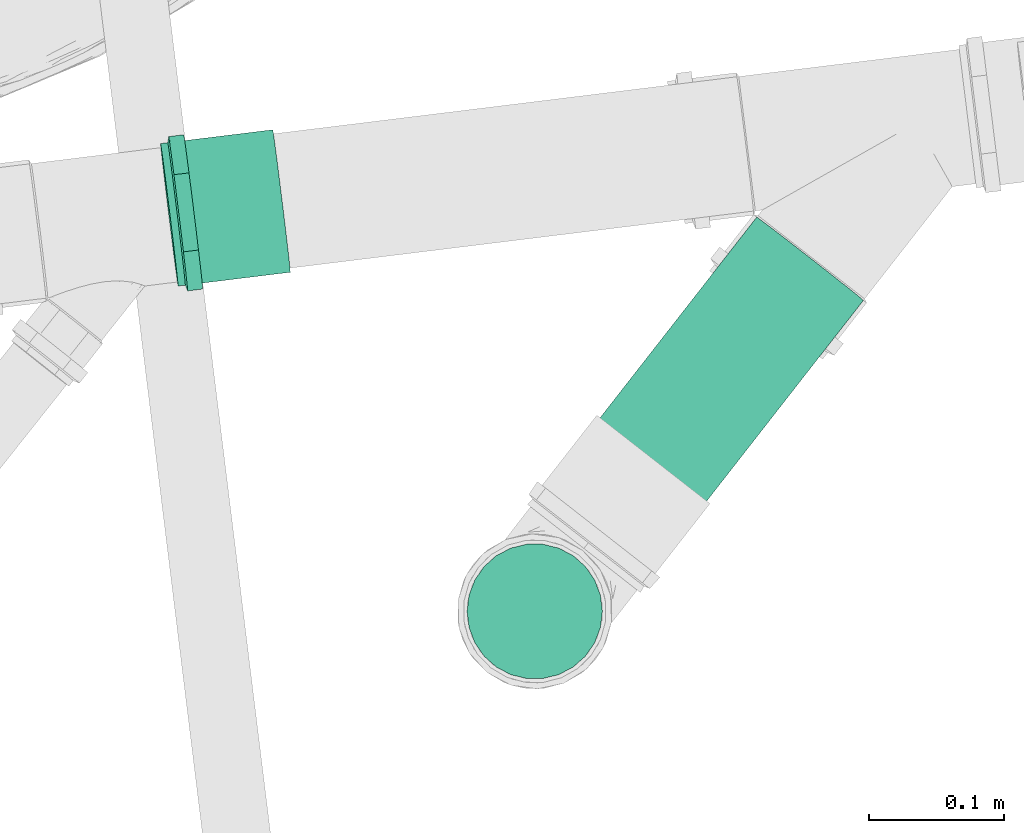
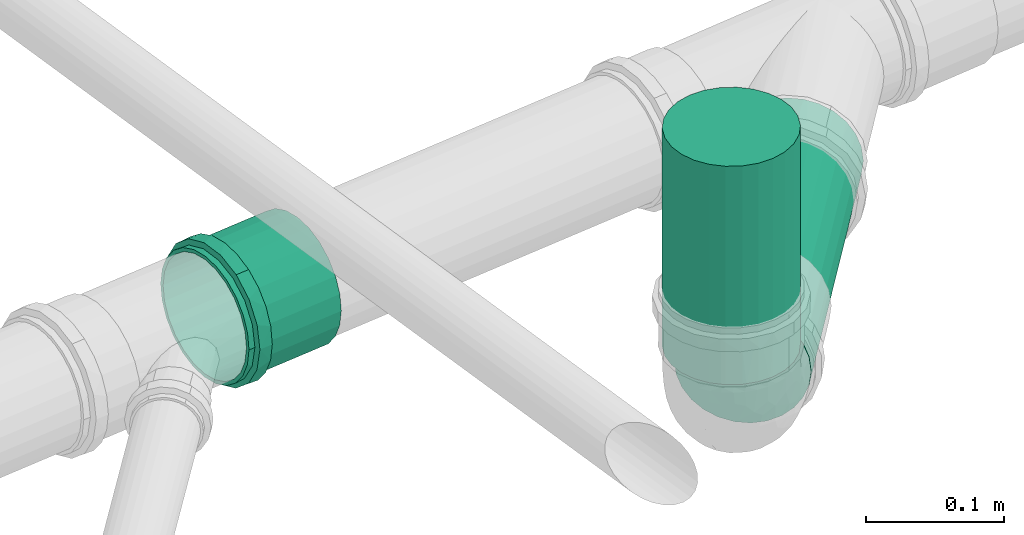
# One storey, part 22 of 97: 2 flow segments, 1 flow fitting.
"""IFC2X3 building model written with IfcOpenShell, lengths in centimetres."""

from ifc_helpers import new_model, entity, si_unit, converted_unit, derived_unit, direction, frame, frame_2d, origin, place, context, subcontext, project, spatial, circle, extrude, faceted_brep, source, transform, mapped, material, type_object, type_shapes, element, save


model = new_model("IFC2X3")

# Units and contexts
model_context = context("Model", 3, precision=0.001, world=origin(), true_north=direction((6.12303176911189e-17, 1.0)))
body_context = subcontext(model_context, "Body", "Model", "MODEL_VIEW")
ifc_project = project(units=[si_unit("LENGTHUNIT", "METRE", prefix="CENTI"), si_unit("AREAUNIT", "SQUARE_METRE"), si_unit("VOLUMEUNIT", "CUBIC_METRE"), converted_unit("PLANEANGLEUNIT", "DEGREE", entity("IfcRatioMeasure", 0.0174532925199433), si_unit("PLANEANGLEUNIT", "RADIAN"), dimensions=[0, 0, 0, 0, 0, 0, 0]), si_unit("MASSUNIT", "GRAM", prefix="KILO"), derived_unit("MASSDENSITYUNIT", [(si_unit("MASSUNIT", "GRAM", prefix="KILO"), 1), (si_unit("LENGTHUNIT", "METRE"), -3)]), derived_unit("MOMENTOFINERTIAUNIT", [(si_unit("LENGTHUNIT", "METRE"), 4)]), si_unit("TIMEUNIT", "SECOND"), si_unit("FREQUENCYUNIT", "HERTZ"), si_unit("THERMODYNAMICTEMPERATUREUNIT", "DEGREE_CELSIUS"), derived_unit("THERMALTRANSMITTANCEUNIT", [(si_unit("MASSUNIT", "GRAM", prefix="KILO"), 1), (si_unit("THERMODYNAMICTEMPERATUREUNIT", "KELVIN"), -1), (si_unit("TIMEUNIT", "SECOND"), -3)]), derived_unit("VOLUMETRICFLOWRATEUNIT", [(si_unit("LENGTHUNIT", "METRE"), 3), (si_unit("TIMEUNIT", "SECOND"), -1)]), si_unit("ELECTRICCURRENTUNIT", "AMPERE"), si_unit("ELECTRICVOLTAGEUNIT", "VOLT"), si_unit("POWERUNIT", "WATT"), si_unit("FORCEUNIT", "NEWTON", prefix="KILO"), si_unit("ILLUMINANCEUNIT", "LUX"), si_unit("LUMINOUSFLUXUNIT", "LUMEN"), si_unit("LUMINOUSINTENSITYUNIT", "CANDELA"), derived_unit("USERDEFINED", [(si_unit("MASSUNIT", "GRAM", prefix="KILO"), -1), (si_unit("LENGTHUNIT", "METRE"), -2), (si_unit("TIMEUNIT", "SECOND"), 3), (si_unit("LUMINOUSFLUXUNIT", "LUMEN"), 1)]), derived_unit("LINEARVELOCITYUNIT", [(si_unit("LENGTHUNIT", "METRE"), 1), (si_unit("TIMEUNIT", "SECOND"), -1)]), si_unit("PRESSUREUNIT", "PASCAL"), derived_unit("USERDEFINED", [(si_unit("LENGTHUNIT", "METRE"), -2), (si_unit("MASSUNIT", "GRAM", prefix="KILO"), 1), (si_unit("TIMEUNIT", "SECOND"), -2)]), derived_unit("LINEARFORCEUNIT", [(si_unit("MASSUNIT", "GRAM", prefix="KILO"), 1), (si_unit("LENGTHUNIT", "METRE"), 1), (si_unit("TIMEUNIT", "SECOND"), -2), (si_unit("LENGTHUNIT", "METRE"), -1)]), derived_unit("PLANARFORCEUNIT", [(si_unit("MASSUNIT", "GRAM", prefix="KILO"), 1), (si_unit("LENGTHUNIT", "METRE"), 1), (si_unit("TIMEUNIT", "SECOND"), -2), (si_unit("LENGTHUNIT", "METRE"), -2)])], contexts=[model_context])

# Site, building, storey
site_placement = place(None, origin())
site = spatial("IfcSite", under=ifc_project, at=site_placement, Name="Default", CompositionType="ELEMENT")
building_placement = place(site_placement, origin())
building = spatial("IfcBuilding", under=site, at=building_placement, Name="HIDROSSANITÁRIO", CompositionType="ELEMENT")
storey_placement = place(building_placement, frame((0.0, 0.0, -260.0)))
storey = spatial("IfcBuildingStorey", under=building, at=storey_placement, Name="TÉRREO-HID", CompositionType="ELEMENT", Elevation=-260.0)

# Flow segments
pipe_segment_type = type_object("IfcPipeSegmentType", Name="Tipos de tubos:Tubo - Esgoto - Série Normal", PredefinedType="NOTDEFINED")
flow_segment_1_placement = place(storey_placement, origin())
element("IfcFlowSegment", 1, at=flow_segment_1_placement, inside=storey, type_object=pipe_segment_type, Name="Tipos de tubos:Tubo - Esgoto - Série Normal", ObjectType="Tipos de tubos:Tubo - Esgoto - Série Normal", context=body_context, shape_type="SweptSolid", body=[
    extrude(circle(Radius=5.0, at=frame_2d((0.0, 4.33146851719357e-13), x_axis=(1.0, 0.0))), frame((-1595.18960689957, 2941.95169652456, -29.2616948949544)), (0.0, 0.0, 1.0), 19.2616948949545),
])
flow_segment_2_placement = place(storey_placement, origin())
element("IfcFlowSegment", 2, at=flow_segment_2_placement, inside=storey, type_object=pipe_segment_type, Name="Tipos de tubos:Tubo - Esgoto - Série Normal", ObjectType="Tipos de tubos:Tubo - Esgoto - Série Normal", context=body_context, shape_type="SweptSolid", body=[
    extrude(circle(Radius=5.0, at=frame_2d((-2.66574468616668e-13, -3.41383352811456e-15), x_axis=(1.0, 0.0))), frame((-1591.55853037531, 2946.6019957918, -35.1616948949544), z_axis=(0.615405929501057, 0.788146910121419, -0.0099995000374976), x_axis=(0.78818631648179, -0.615436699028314, 0.0)), (0.0, 0.0, 1.0), 27.162935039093),
])

# Flow fitting
ifc_material = material(Name="PVC Branco")
pipe_fitting_type = type_object("IfcPipeFittingType", Name="Luva Simples para Conexão - Serie Normal - Esgoto - MEP - Tigre:Standard", PredefinedType="NOTDEFINED", material=ifc_material)
shared_shape = source(origin(), body_context, "Body", "Brep", [
    faceted_brep([(1.77700000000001, 2.8725, -4.9753159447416), (1.77700000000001, 4.06232845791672, -4.06232845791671), (1.77700000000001, 2.65249999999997, -4.59426476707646), (1.77700000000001, 1.37303503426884, -5.12423650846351), (1.77700000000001, 1.48691541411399, -5.5492438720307), (1.77700000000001, 3.75120147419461, -3.75120147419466), (1.77700000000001, 4.9753159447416, -2.8725), (1.77700000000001, 4.59426476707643, -2.65250000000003), (1.77700000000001, 5.1242365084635, -1.37303503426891), (1.77700000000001, 5.5492438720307, -1.48691541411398), (1.77700000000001, 5.305, 0.0), (1.77700000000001, 5.745, 0.0), (1.77700000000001, 5.1242365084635, 1.3730350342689), (1.77700000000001, 5.54924387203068, 1.48691541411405), (1.77700000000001, 4.59426476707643, 2.65250000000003), (1.77700000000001, 4.97531594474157, 2.87250000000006), (1.77700000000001, 3.75120147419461, 3.75120147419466), (1.77700000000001, 4.06232845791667, 4.06232845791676), (1.77700000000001, 2.65249999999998, 4.59426476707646), (1.77700000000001, 2.87249999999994, 4.97531594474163), (1.77700000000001, 1.37303503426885, 5.12423650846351), (1.77700000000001, 1.48691541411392, 5.54924387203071), (1.77700000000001, 0.0, 5.305), (1.77700000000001, 0.0, 5.745), (1.77700000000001, -1.37303503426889, 5.1242365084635), (1.77700000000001, -1.48691541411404, 5.54924387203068), (1.77700000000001, -2.65250000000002, 4.59426476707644), (1.77700000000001, -2.87250000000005, 4.97531594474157), (1.77700000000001, -3.75120147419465, 3.75120147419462), (1.77700000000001, -4.06232845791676, 4.06232845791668), (1.77700000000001, -4.59426476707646, 2.65249999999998), (1.77700000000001, -4.97531594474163, 2.87249999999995), (1.77700000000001, -5.54924387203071, 1.48691541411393), (1.77700000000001, -5.12423650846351, 1.37303503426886), (1.77700000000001, -5.745, 0.0), (1.77700000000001, -5.305, 0.0), (1.77700000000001, -5.54924387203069, -1.486915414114), (1.77700000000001, -5.12423650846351, -1.37303503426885), (1.77700000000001, -4.97531594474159, -2.87250000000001), (1.77700000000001, -4.59426476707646, -2.65249999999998), (1.77700000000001, -4.06232845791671, -4.06232845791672), (1.77700000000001, -3.75120147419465, -3.75120147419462), (1.77700000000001, -2.87249999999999, -4.97531594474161), (1.77700000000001, -2.65250000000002, -4.59426476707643), (1.77700000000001, -1.48691541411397, -5.5492438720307), (1.77700000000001, -1.3730350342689, -5.1242365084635), (1.77700000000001, 0.0, -5.745), (1.77700000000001, 0.0, -5.305), (0.657000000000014, -1.93463887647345, 5.31665771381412), (0.657000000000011, -4.4007619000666, 3.69300957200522), (0.657000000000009, -4.89962626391, 2.82901737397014), (0.657000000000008, -5.39849062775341, 1.96502517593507), (0.657000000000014, -2.87216972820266, 4.97550661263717), (0.657000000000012, -3.63646581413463, 4.3342580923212), (0.657000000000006, -5.5717453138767, 0.982512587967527), (0.657000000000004, -5.745, 0.0), (0.657000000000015, -0.997108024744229, 5.65780881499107), (0.657000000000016, 0.998234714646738, 5.65761013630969), (0.657000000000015, 0.0005633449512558, 5.65770947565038), (0.657000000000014, 3.63732887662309, 4.33353383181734), (0.657000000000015, 1.93569761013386, 5.31627233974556), (0.657000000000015, 2.87316050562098, 4.97493454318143), (0.65700000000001, 5.39888184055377, 1.96395006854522), (0.657000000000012, 4.90018954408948, 2.82804159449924), (0.657000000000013, 4.40149724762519, 3.69213312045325), (0.657000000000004, 5.745, 0.0), (0.656999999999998, 4.40149724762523, -3.6921331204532), (0.657, 4.90018954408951, -2.82804159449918), (0.657000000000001, 5.39888184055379, -1.96395006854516), (0.656999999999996, 2.87316050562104, -4.9749345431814), (0.656999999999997, 3.63732887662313, -4.3335338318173), (0.656999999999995, 1.93569761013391, -5.31627233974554), (0.656999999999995, 0.998234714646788, -5.65761013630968), (0.656999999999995, -0.997108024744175, -5.65780881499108), (0.656999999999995, 0.000563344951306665, -5.65770947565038), (0.656999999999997, -3.6364658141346, -4.33425809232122), (0.656999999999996, -2.87216972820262, -4.9755066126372), (0.656999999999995, -1.9346388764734, -5.31665771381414), (0.657000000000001, -5.39849062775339, -1.96502517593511), (0.657, -4.89962626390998, -2.82901737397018), (0.656999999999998, -4.40076190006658, -3.69300957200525), (0.657000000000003, -5.5717453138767, -0.982512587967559), (8.35200000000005, 2.6525, -4.59426476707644), (8.35200000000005, 3.75120147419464, -3.75120147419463), (8.35200000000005, 2.49999999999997, -4.33012701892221), (8.35200000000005, 1.29409522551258, -4.82962913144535), (8.35200000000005, 1.37303503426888, -5.1242365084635), (8.35200000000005, 3.53553390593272, -3.53553390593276), (8.35200000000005, 4.59426476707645, -2.6525), (8.35200000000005, 4.33012701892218, -2.50000000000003), (8.35200000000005, 4.82962913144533, -1.29409522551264), (8.35200000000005, 5.12423650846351, -1.37303503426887), (8.35200000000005, 5.0, 0.0), (8.35200000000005, 5.305, 0.0), (8.35200000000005, 4.82962913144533, 1.29409522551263), (8.35200000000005, 5.12423650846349, 1.37303503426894), (8.35200000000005, 4.33012701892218, 2.50000000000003), (8.35200000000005, 4.59426476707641, 2.65250000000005), (8.35200000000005, 3.53553390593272, 3.53553390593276), (8.35200000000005, 3.75120147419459, 3.75120147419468), (8.35200000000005, 2.49999999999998, 4.33012701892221), (8.35200000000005, 2.65249999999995, 4.59426476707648), (8.35200000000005, 1.29409522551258, 4.82962913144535), (8.35200000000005, 1.37303503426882, 5.12423650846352), (8.35200000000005, 0.0, 5.0), (8.35200000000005, 0.0, 5.305), (8.35200000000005, -1.29409522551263, 4.82962913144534), (8.35200000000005, -1.37303503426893, 5.12423650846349), (8.35200000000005, -2.50000000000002, 4.33012701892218), (8.35200000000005, -2.65250000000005, 4.59426476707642), (8.35200000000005, -3.53553390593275, 3.53553390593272), (8.35200000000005, -3.75120147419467, 3.7512014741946), (8.35200000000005, -4.3301270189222, 2.49999999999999), (8.35200000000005, -4.59426476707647, 2.65249999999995), (8.35200000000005, -5.12423650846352, 1.37303503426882), (8.35200000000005, -4.82962913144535, 1.29409522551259), (8.35200000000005, -5.305, 0.0), (8.35200000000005, -5.0, 0.0), (8.35200000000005, -5.1242365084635, -1.37303503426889), (8.35200000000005, -4.82962913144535, -1.29409522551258), (8.35200000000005, -4.59426476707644, -2.65250000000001), (8.35200000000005, -4.3301270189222, -2.49999999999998), (8.35200000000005, -3.75120147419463, -3.75120147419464), (8.35200000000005, -3.53553390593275, -3.53553390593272), (8.35200000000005, -2.65249999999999, -4.59426476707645), (8.35200000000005, -2.50000000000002, -4.33012701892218), (8.35200000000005, -1.37303503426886, -5.12423650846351), (8.35200000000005, -1.29409522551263, -4.82962913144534), (8.35200000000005, 0.0, -5.305), (8.35200000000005, 0.0, -5.0), (0.0, 2.49999999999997, -4.33012701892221), (0.0, 3.75120147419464, -3.75120147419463), (0.0, 2.6525, -4.59426476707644), (0.0, 1.29409522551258, -4.82962913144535), (0.0, 3.53553390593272, -3.53553390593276), (0.0, 4.59426476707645, -2.6525), (0.0, 4.33012701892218, -2.50000000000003), (0.0, 4.82962913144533, -1.29409522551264), (0.0, 5.12423650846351, -1.37303503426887), (0.0, 5.0, 0.0), (0.0, 5.305, 0.0), (0.0, 4.82962913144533, 1.29409522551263), (0.0, 5.12423650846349, 1.37303503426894), (0.0, 4.33012701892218, 2.50000000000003), (0.0, 4.59426476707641, 2.65250000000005), (0.0, 3.53553390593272, 3.53553390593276), (0.0, 3.75120147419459, 3.75120147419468), (0.0, 2.49999999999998, 4.33012701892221), (0.0, 2.65249999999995, 4.59426476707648), (0.0, 1.29409522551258, 4.82962913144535), (0.0, 1.37303503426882, 5.12423650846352), (0.0, 0.0, 5.0), (0.0, 0.0, 5.305), (0.0, -1.29409522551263, 4.82962913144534), (0.0, -1.37303503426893, 5.12423650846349), (0.0, -2.50000000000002, 4.33012701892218), (0.0, -2.65250000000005, 4.59426476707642), (0.0, -3.53553390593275, 3.53553390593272), (0.0, -3.75120147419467, 3.7512014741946), (0.0, -4.3301270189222, 2.49999999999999), (0.0, -4.59426476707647, 2.65249999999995), (0.0, -5.12423650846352, 1.37303503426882), (0.0, -4.82962913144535, 1.29409522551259), (0.0, -5.305, 0.0), (0.0, -5.0, 0.0), (0.0, -5.1242365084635, -1.37303503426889), (0.0, -4.82962913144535, -1.29409522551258), (0.0, -4.59426476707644, -2.65250000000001), (0.0, -4.3301270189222, -2.49999999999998), (0.0, -3.75120147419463, -3.75120147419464), (0.0, -3.53553390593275, -3.53553390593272), (0.0, -2.65249999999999, -4.59426476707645), (0.0, -2.50000000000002, -4.33012701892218), (0.0, -1.37303503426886, -5.12423650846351), (0.0, -1.29409522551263, -4.82962913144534), (0.0, 0.0, -5.305), (0.0, 0.0, -5.0), (0.0, 1.37303503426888, -5.1242365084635), (0.537000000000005, -5.305, 0.0), (0.537000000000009, -4.98507989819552, 1.81438788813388), (0.537000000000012, -4.06390540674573, 3.4099410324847), (0.537000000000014, -2.65258010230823, 4.59421851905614), (0.537000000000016, -0.921325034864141, 5.22438371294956), (0.537000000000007, 5.1449924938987, 0.907324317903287), (0.537000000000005, 5.305, 0.0), (0.537000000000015, 2.65233979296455, 4.59435725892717), (0.537000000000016, 0.921051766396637, 5.22443189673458), (0.537000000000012, 4.06372704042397, 3.41015359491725), (0.537000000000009, 4.9849849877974, 1.81464863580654), (0.537000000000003, 5.14499249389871, -0.907324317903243), (0.537000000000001, 4.98498498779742, -1.81464863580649), (0.536999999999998, 4.063727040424, -3.41015359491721), (0.536999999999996, 2.6523397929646, -4.59435725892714), (0.536999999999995, 0.921051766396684, -5.22443189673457), (0.536999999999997, -2.6525801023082, -4.59421851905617), (0.536999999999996, -0.921325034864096, -5.22438371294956), (0.536999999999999, -4.0639054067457, -3.40994103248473), (0.537000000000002, -4.98507989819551, -1.81438788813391), (5.0, -5.0, 0.0), (5.0, 5.0, 0.0)], [[[0, 1, 2]], [[0, 2, 3]], [[3, 4, 0]], [[2, 1, 5]], [[6, 5, 1]], [[5, 6, 7]], [[7, 6, 8]], [[9, 8, 6]], [[9, 10, 8]], [[10, 9, 11]], [[12, 10, 11]], [[11, 13, 12]], [[12, 13, 14]], [[15, 14, 13]], [[14, 15, 16]], [[16, 15, 17]], [[18, 16, 17]], [[17, 19, 18]], [[18, 19, 20]], [[21, 20, 19]], [[20, 21, 22]], [[22, 21, 23]], [[22, 23, 24]], [[24, 23, 25]], [[24, 25, 26]], [[27, 26, 25]], [[27, 28, 26]], [[28, 27, 29]], [[29, 30, 28]], [[31, 30, 29]], [[30, 31, 32]], [[32, 33, 30]], [[34, 33, 32]], [[34, 35, 33]], [[36, 35, 34]], [[36, 37, 35]], [[37, 36, 38]], [[38, 39, 37]], [[39, 38, 40]], [[39, 40, 41]], [[40, 42, 41]], [[41, 42, 43]], [[43, 42, 44]], [[44, 45, 43]], [[46, 45, 44]], [[4, 47, 46]], [[46, 47, 45]], [[4, 3, 47]], [[48, 27, 25]], [[31, 29, 49]], [[31, 49, 50, 51]], [[52, 53, 27]], [[32, 51, 54]], [[54, 55, 34]], [[54, 34, 32]], [[25, 56, 48]], [[49, 29, 53]], [[23, 57, 58, 56]], [[59, 19, 17]], [[27, 53, 29]], [[48, 52, 27]], [[31, 51, 32]], [[57, 23, 21]], [[60, 19, 61]], [[15, 62, 63, 64]], [[19, 60, 21]], [[15, 13, 62]], [[17, 64, 59]], [[57, 21, 60]], [[23, 56, 25]], [[15, 64, 17]], [[13, 65, 62]], [[13, 11, 65]], [[59, 61, 19]], [[65, 11, 9]], [[6, 1, 66]], [[6, 66, 67, 68]], [[69, 70, 0]], [[68, 65, 9]], [[71, 69, 0]], [[71, 0, 4]], [[4, 72, 71]], [[66, 1, 70]], [[46, 73, 74, 72]], [[75, 76, 42]], [[0, 70, 1]], [[75, 42, 40]], [[6, 68, 9]], [[73, 46, 44]], [[77, 42, 76]], [[38, 78, 79, 80]], [[42, 77, 44]], [[38, 36, 78]], [[40, 80, 75]], [[73, 44, 77]], [[46, 72, 4]], [[38, 80, 40]], [[81, 78, 36]], [[55, 81, 34]], [[34, 81, 36]], [[82, 83, 84]], [[82, 84, 85]], [[85, 86, 82]], [[84, 83, 87]], [[88, 87, 83]], [[87, 88, 89]], [[89, 88, 90]], [[91, 90, 88]], [[91, 92, 90]], [[92, 91, 93]], [[94, 92, 93]], [[93, 95, 94]], [[94, 95, 96]], [[97, 96, 95]], [[96, 97, 98]], [[98, 97, 99]], [[100, 98, 99]], [[99, 101, 100]], [[100, 101, 102]], [[103, 102, 101]], [[102, 103, 104]], [[104, 103, 105]], [[104, 105, 106]], [[106, 105, 107]], [[106, 107, 108]], [[109, 108, 107]], [[110, 108, 109]], [[110, 109, 111]], [[111, 112, 110]], [[113, 112, 111]], [[112, 113, 114]], [[114, 115, 112]], [[116, 115, 114]], [[116, 117, 115]], [[118, 117, 116]], [[118, 119, 117]], [[119, 118, 120]], [[120, 121, 119]], [[121, 120, 122]], [[121, 122, 123]], [[122, 124, 123]], [[125, 123, 124]], [[125, 124, 126]], [[126, 127, 125]], [[128, 127, 126]], [[86, 129, 128]], [[128, 129, 127]], [[86, 85, 129]], [[130, 131, 132]], [[133, 130, 132]], [[134, 131, 130]], [[131, 134, 135]], [[136, 135, 134]], [[137, 135, 136]], [[135, 137, 138]], [[137, 139, 138]], [[140, 138, 139]], [[140, 139, 141]], [[141, 142, 140]], [[143, 142, 141]], [[142, 143, 144]], [[145, 144, 143]], [[146, 144, 145]], [[146, 145, 147]], [[147, 148, 146]], [[149, 148, 147]], [[148, 149, 150]], [[151, 150, 149]], [[152, 150, 151]], [[153, 152, 151]], [[154, 152, 153]], [[155, 154, 153]], [[154, 155, 156]], [[156, 155, 157]], [[158, 156, 157]], [[157, 159, 158]], [[158, 159, 160]], [[161, 160, 159]], [[159, 162, 161]], [[161, 162, 163]], [[162, 164, 163]], [[163, 164, 165]], [[164, 166, 165]], [[167, 165, 166]], [[166, 168, 167]], [[169, 167, 168]], [[170, 169, 168]], [[170, 171, 169]], [[171, 170, 172]], [[173, 171, 172]], [[172, 174, 173]], [[173, 174, 175]], [[174, 176, 175]], [[176, 133, 177]], [[175, 176, 177]], [[132, 177, 133]], [[161, 178, 179]], [[158, 180, 181]], [[179, 180, 160]], [[181, 182, 154]], [[179, 160, 161]], [[161, 163, 178]], [[35, 116, 114, 33]], [[183, 184, 140]], [[181, 156, 158]], [[158, 160, 180]], [[181, 154, 156]], [[182, 152, 154]], [[183, 140, 142]], [[185, 150, 186]], [[187, 146, 185]], [[142, 188, 183]], [[187, 188, 144]], [[185, 148, 150]], [[150, 152, 186]], [[187, 144, 146]], [[146, 148, 185]], [[188, 142, 144]], [[186, 152, 182]], [[189, 190, 138]], [[131, 191, 192]], [[190, 191, 135]], [[192, 193, 177]], [[190, 135, 138]], [[184, 189, 140]], [[192, 132, 131]], [[131, 135, 191]], [[192, 177, 132]], [[193, 175, 177]], [[140, 189, 138]], [[194, 173, 195]], [[196, 169, 194]], [[165, 197, 178]], [[196, 197, 167]], [[165, 178, 163]], [[35, 37, 118, 116]], [[194, 171, 173]], [[173, 175, 195]], [[196, 167, 169]], [[169, 171, 194]], [[197, 165, 167]], [[195, 175, 193]], [[115, 117, 198, 164, 162]], [[155, 108, 110, 157]], [[110, 112, 159, 157]], [[112, 115, 162, 159]], [[106, 108, 155, 153]], [[153, 151, 104, 106]], [[102, 104, 151, 149]], [[102, 149, 147, 100]], [[141, 94, 96, 143]], [[96, 98, 145, 143]], [[98, 100, 147, 145]], [[92, 94, 141, 139, 199]], [[199, 139, 137, 90, 92]], [[87, 89, 136, 134]], [[134, 130, 84, 87]], [[89, 90, 137, 136]], [[85, 84, 130, 133]], [[133, 176, 129, 85]], [[127, 129, 176, 174]], [[127, 174, 172, 125]], [[166, 119, 121, 168]], [[121, 123, 170, 168]], [[123, 125, 172, 170]], [[117, 119, 166, 164, 198]], [[81, 178, 197]], [[190, 68, 67]], [[194, 75, 196]], [[193, 72, 74]], [[195, 77, 194]], [[79, 197, 196]], [[81, 55, 178]], [[192, 69, 71]], [[79, 78, 197]], [[194, 77, 76]], [[191, 66, 70]], [[80, 196, 75]], [[68, 190, 189]], [[74, 195, 193]], [[192, 71, 193]], [[190, 67, 191]], [[70, 192, 191]], [[65, 189, 184]], [[195, 73, 77]], [[193, 71, 72]], [[197, 78, 81]], [[191, 67, 66]], [[189, 65, 68]], [[196, 80, 79]], [[70, 69, 192]], [[194, 76, 75]], [[73, 195, 74]], [[65, 183, 62]], [[48, 56, 182]], [[58, 182, 56]], [[54, 51, 179]], [[59, 185, 61]], [[60, 186, 57]], [[53, 52, 181]], [[63, 187, 64]], [[58, 57, 186]], [[187, 63, 188]], [[186, 60, 185]], [[50, 49, 180]], [[185, 59, 187]], [[59, 64, 187]], [[182, 58, 186]], [[50, 179, 51]], [[54, 178, 55]], [[53, 180, 49]], [[63, 62, 188]], [[181, 48, 182]], [[183, 65, 184]], [[179, 50, 180]], [[178, 54, 179]], [[183, 188, 62]], [[180, 53, 181]], [[60, 61, 185]], [[48, 181, 52]], [[30, 33, 114, 113]], [[26, 28, 111, 109]], [[113, 111, 28, 30]], [[107, 24, 26, 109]], [[107, 105, 22, 24]], [[18, 20, 103, 101]], [[99, 16, 18, 101]], [[12, 14, 97, 95]], [[99, 97, 14, 16]], [[10, 12, 95, 93]], [[103, 20, 22, 105]], [[91, 8, 10, 93]], [[88, 7, 8, 91]], [[82, 86, 3, 2]], [[83, 5, 7, 88]], [[2, 5, 83, 82]], [[86, 128, 47, 3]], [[43, 45, 126, 124]], [[122, 41, 43, 124]], [[37, 39, 120, 118]], [[122, 120, 39, 41]], [[126, 45, 47, 128]]]),
])
type_shapes(pipe_fitting_type, [shared_shape])
flow_fitting_placement = place(storey_placement, frame((-1622.19092014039, 2971.25593990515, -35.0622280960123), z_axis=(-0.00792100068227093, -0.00650289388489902, -0.999947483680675), x_axis=(0.992474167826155, 0.122147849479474, -0.00865615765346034)))
element("IfcFlowFitting", 3, at=flow_fitting_placement, inside=storey, type_object=pipe_fitting_type, material=ifc_material, Name="Luva Simples para Conexão - Serie Normal - Esgoto - MEP - Tigre:Standard", ObjectType="Luva Simples para Conexão - Serie Normal - Esgoto - MEP - Tigre:Standard", context=body_context, shape_type="MappedRepresentation", body=[
    mapped(shared_shape, transform((0.0, 0.0, 0.0), scale=1.0)),
])

save(model, "model.ifc")
